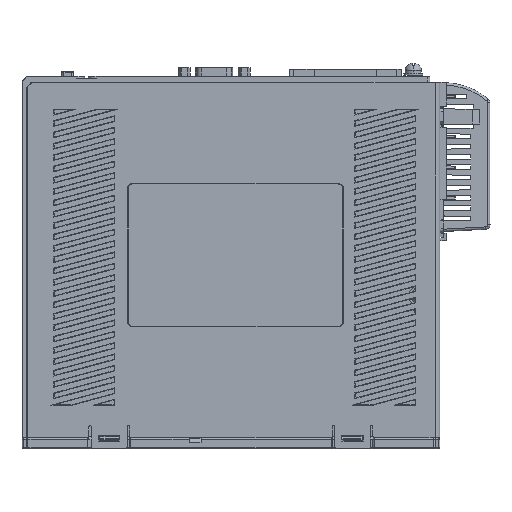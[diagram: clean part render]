
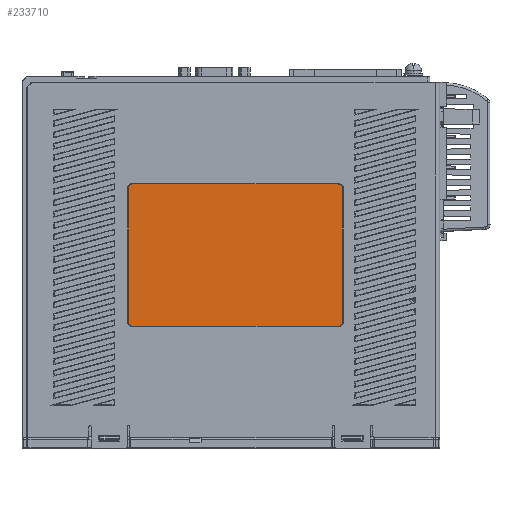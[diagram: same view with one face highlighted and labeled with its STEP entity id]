
A CAD part, left-side view. The second image highlights one B-rep face of the part: STEP entity #233710.
In plain terms, the highlighted planar face has unit normal (-1, 0, 0) as drawn and (0, 0, -1) by its records, which use the part's own axes.
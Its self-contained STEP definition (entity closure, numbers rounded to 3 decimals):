
#195979=CARTESIAN_POINT('',(-43.1,-53.3,
-19.5));
#195988=CARTESIAN_POINT('',(-43.1,-108.9,
-19.5));
#195990=DIRECTION('',(0.,1.,0.));
#195991=VECTOR('',#195990,55.6);
#195992=CARTESIAN_POINT('',(-43.1,-108.9,
-19.5));
#195993=LINE('',#195992,#195991);
#195997=CARTESIAN_POINT('',(-41.1,-110.9,
-19.5));
#196006=CARTESIAN_POINT('',(44.9,-110.9,
-19.5));
#196008=DIRECTION('',(-1.,0.,0.));
#196009=VECTOR('',#196008,86.);
#196010=CARTESIAN_POINT('',(44.9,-110.9,
-19.5));
#196011=LINE('',#196010,#196009);
#196015=CARTESIAN_POINT('',(46.9,-108.9,
-19.5));
#196024=CARTESIAN_POINT('',(46.9,-53.3,
-19.5));
#196026=DIRECTION('',(0.,-1.,0.));
#196027=VECTOR('',#196026,55.6);
#196028=CARTESIAN_POINT('',(46.9,-53.3,
-19.5));
#196029=LINE('',#196028,#196027);
#196033=CARTESIAN_POINT('',(44.9,-51.3,
-19.5));
#196044=DIRECTION('',(1.,0.,0.));
#196045=VECTOR('',#196044,86.);
#196046=CARTESIAN_POINT('',(-41.1,-51.3,
-19.5));
#196047=LINE('',#196046,#196045);
#196048=CARTESIAN_POINT('',(-41.1,-53.3,
-19.5));
#196049=DIRECTION('',(0.,0.,1.));
#196050=DIRECTION('',(0.,1.,0.));
#196051=AXIS2_PLACEMENT_3D('',#196048,#196049,#196050);
#196053=CARTESIAN_POINT('',(-41.1,-108.9,
-19.5));
#196054=DIRECTION('',(0.,0.,1.));
#196055=DIRECTION('',(-1.,0.,0.));
#196056=AXIS2_PLACEMENT_3D('',#196053,#196054,#196055);
#196058=CARTESIAN_POINT('',(44.9,-108.9,
-19.5));
#196059=DIRECTION('',(0.,0.,1.));
#196060=DIRECTION('',(0.,-1.,
0.));
#196061=AXIS2_PLACEMENT_3D('',#196058,#196059,#196060);
#196063=CARTESIAN_POINT('',(44.9,-53.3,
-19.5));
#196064=DIRECTION('',(0.,0.,1.));
#196065=DIRECTION('',(1.,0.,0.));
#196066=AXIS2_PLACEMENT_3D('',#196063,#196064,#196065);
#211205=VERTEX_POINT('',#195979);
#211206=CARTESIAN_POINT('',(-41.1,-51.3,
-19.5));
#211207=VERTEX_POINT('',#211206);
#211208=VERTEX_POINT('',#195988);
#211209=VERTEX_POINT('',#195997);
#211210=VERTEX_POINT('',#196006);
#211211=VERTEX_POINT('',#196015);
#211212=VERTEX_POINT('',#196024);
#211213=VERTEX_POINT('',#196033);
#233695=CARTESIAN_POINT('',(0.,-156.,-19.5));
#233696=DIRECTION('',(0.,0.,-1.));
#233697=DIRECTION('',(-1.,0.,0.));
#233698=AXIS2_PLACEMENT_3D('',#233695,#233696,#233697);
#233699=PLANE('',#233698);
#233700=ORIENTED_EDGE('',*,*,#233553,.T.);
#233701=ORIENTED_EDGE('',*,*,#233573,.F.);
#233702=ORIENTED_EDGE('',*,*,#233593,.T.);
#233703=ORIENTED_EDGE('',*,*,#233612,.F.);
#233704=ORIENTED_EDGE('',*,*,#233632,.T.);
#233705=ORIENTED_EDGE('',*,*,#233651,.F.);
#233706=ORIENTED_EDGE('',*,*,#233671,.T.);
#233707=ORIENTED_EDGE('',*,*,#233689,.F.);
#233708=EDGE_LOOP('',(#233700,#233701,#233702,#233703,#233704,#233705,#233706,
#233707));
#233709=FACE_OUTER_BOUND('',#233708,.F.);
#196052=CIRCLE('',#196051,2.);
#196057=CIRCLE('',#196056,2.);
#196062=CIRCLE('',#196061,2.);
#196067=CIRCLE('',#196066,2.);
#233553=EDGE_CURVE('',#211207,#211205,#196052,.T.);
#233573=EDGE_CURVE('',#211208,#211205,#195993,.T.);
#233593=EDGE_CURVE('',#211208,#211209,#196057,.T.);
#233612=EDGE_CURVE('',#211210,#211209,#196011,.T.);
#233632=EDGE_CURVE('',#211210,#211211,#196062,.T.);
#233651=EDGE_CURVE('',#211212,#211211,#196029,.T.);
#233671=EDGE_CURVE('',#211212,#211213,#196067,.T.);
#233689=EDGE_CURVE('',#211207,#211213,#196047,.T.);
#233710=ADVANCED_FACE('',(#233709),#233699,.T.);
